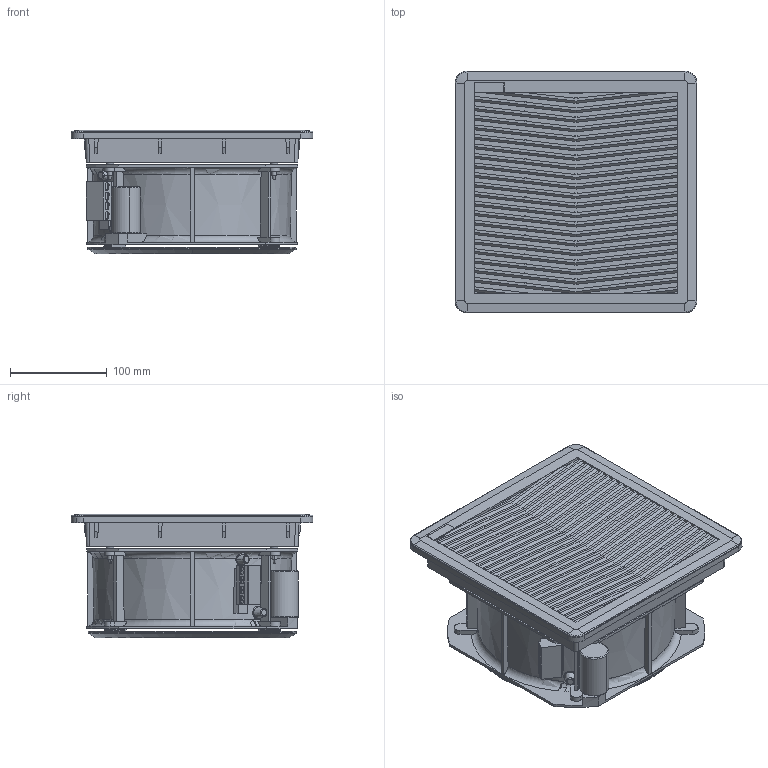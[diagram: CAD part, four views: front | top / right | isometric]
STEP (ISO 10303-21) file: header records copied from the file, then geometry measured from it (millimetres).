
FILE_DESCRIPTION (( 'STEP AP214' ), '1' );
FILE_NAME ('FF15GAxxxyJ.STEP', '2023-09-29T13:35:14', ( '' ), ( '' ), 'SwSTEP 2.0', 'SolidWorks 2022', '' );
FILE_SCHEMA (( 'AUTOMOTIVE_DESIGN' ));
Length unit declared in the file: millimetre
Products named in the file (11): DT-00158DSI_Sede etichetta semplificato; FF15GAxxxyJ; DT-02092DSI_b_semplificato; DT-04082DSI_mostrina semplificata; DT-02093DSI_C22s semplificato con cond.; DT-00159DSI_Base semplificata; DT-02091DSI_semplificato; 040014_LK_980-01-4_Semplificata; DT-03230DSI_Assieme semplificato; GMP200NK_semplificata; DT-03561DSI_FAR175TP semplificato
Assembly tree (13 placements, depth 3):
  FF15GAxxxyJ
    DT-03230DSI_Assieme semplificato
      DT-00159DSI_Base semplificata
      DT-00158DSI_Sede etichetta semplificato
      DT-04082DSI_mostrina semplificata
    DT-02093DSI_C22s semplificato con cond.
      DT-02091DSI_semplificato
      DT-02092DSI_b_semplificato
      040014_LK_980-01-4_Semplificata
    GMP200NK_semplificata
    DT-03561DSI_FAR175TP semplificato  x4
Bounding box: 250.12 x 250.08 x 127.87 mm (x, y, z)
Volume: 4712248.8 mm3; surface area: 579612.2 mm2
Topology: 10 solids, 11 shells, 1008 faces, 2813 edges, 1846 vertices
Faces by surface type: plane 789, bspline 78, cylinder 61, cone 41, torus 39
Entity records: 39288 total; most frequent: CARTESIAN_POINT 16672, ORIENTED_EDGE 5216, DIRECTION 3487, EDGE_CURVE 2608, VERTEX_POINT 1714, VECTOR 1313, LINE 1313, AXIS2_PLACEMENT_3D 1087
